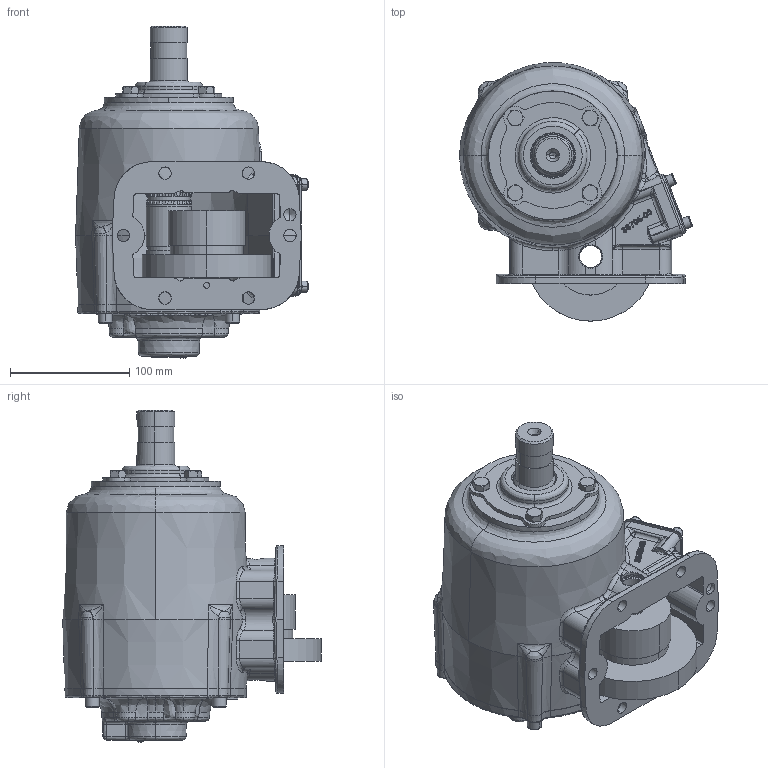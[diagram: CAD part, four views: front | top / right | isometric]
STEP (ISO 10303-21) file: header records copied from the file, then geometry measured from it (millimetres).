
FILE_DESCRIPTION (( 'STEP AP203' ), '1' );
FILE_NAME ('CS6S-XXXXX-X3BX.STEP', '2011-11-29T20:07:49', ( 'User' ), ( 'Muncie Power Products, Inc.' ), 'SwSTEP 2.0', 'SolidWorks 2011', '' );
FILE_SCHEMA (( 'CONFIG_CONTROL_DESIGN' ));
Length unit declared in the file: inch
Products named in the file (1): CS6S-XXXXX-X3BX
Bounding box: 195.33 x 216.75 x 278.52 mm (x, y, z)
Surface area: 418591.4 mm2 (no closed solid volume)
Topology: 0 solids, 23 shells, 2439 faces, 6203 edges, 3875 vertices
Faces by surface type: bspline 923, plane 580, cylinder 539, cone 322, torus 62, sphere 13
Entity records: 184095 total; most frequent: CARTESIAN_POINT 133351, ORIENTED_EDGE 12154, DIRECTION 7732, EDGE_CURVE 6081, VERTEX_POINT 3845, AXIS2_PLACEMENT_3D 2822, EDGE_LOOP 2624, B_SPLINE_CURVE_WITH_KNOTS 2567
